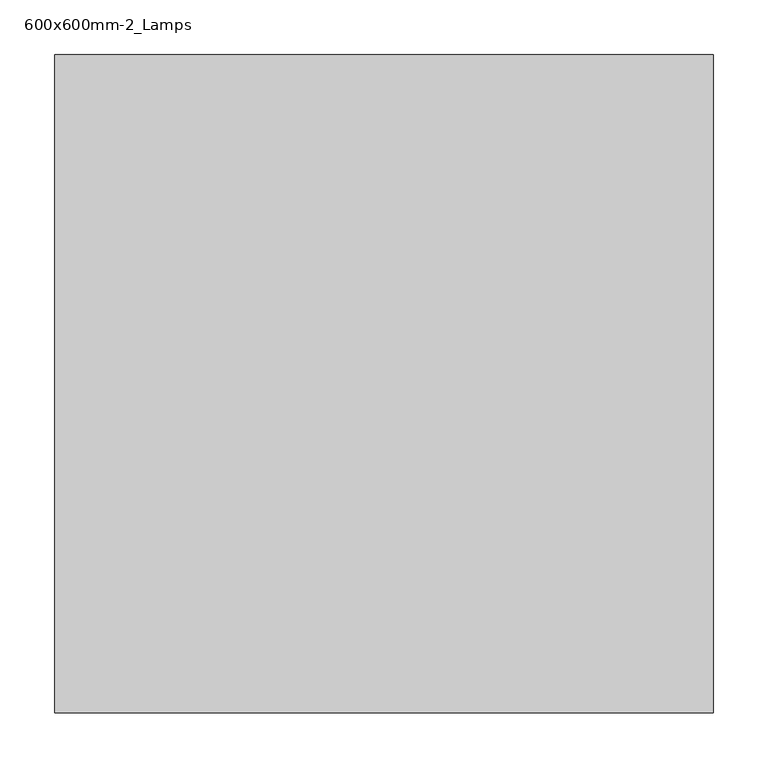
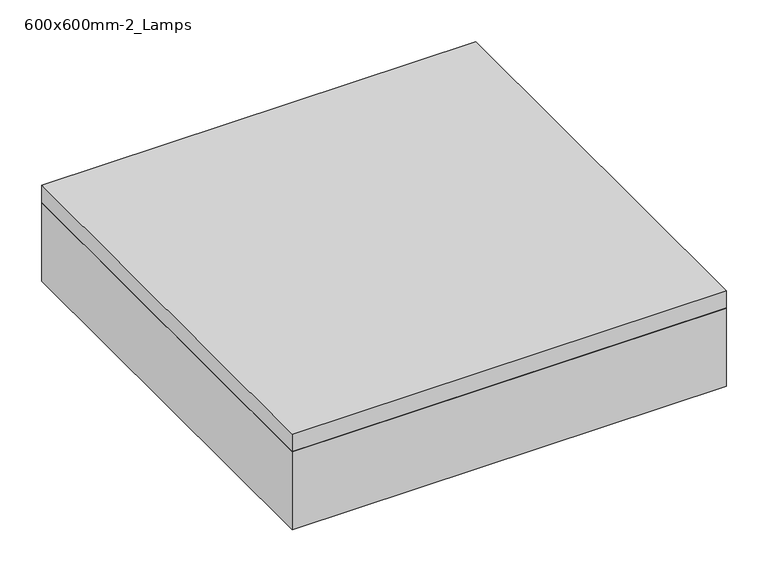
"""IFC4 building model written with IfcOpenShell, lengths in millimetres: light fixture geometry, BIMHealth-Light_Fitting-LOD2A-v1 : 600x600mm-2_Lamps."""

from ifc_helpers import new_model, si_unit, frame, origin, place, context, project, spatial, polyline, outline, extrude, source, transform, mapped, element, save


def light_fixture_600x600mm_2_lamps_e2767e77(model_context):
    return source(origin(), model_context, "Body", "SweptSolid", [
        extrude(outline(polyline([(251.0964984, 219.9340679), (251.0964984, -329.2659321), (-298.1035016, -329.2659321), (-298.1035016, 219.9340679), (251.0964984, 219.9340679)])), frame((0.0, 0.0, 2438.4), z_axis=(0.0, 0.0, 1.0), x_axis=(1.0, 0.0, 0.0)), (0.0, 0.0, 1.0), 6.35),
        extrude(outline(polyline([(276.4964984, 245.3340679), (276.4964984, -354.6659321), (-323.5035016, -354.6659321), (-323.5035016, 245.3340679), (276.4964984, 245.3340679)]), holes=[polyline([(251.0964984, 219.9340679), (-298.1035016, 219.9340679), (-298.1035016, -329.2659321), (251.0964984, -329.2659321), (251.0964984, 219.9340679)])]), frame((0.0, 0.0, 2438.4), z_axis=(0.0, 0.0, 1.0), x_axis=(1.0, 0.0, 0.0)), (0.0, 0.0, 1.0), 114.3),
        extrude(outline(polyline([(251.0964984, 220.3340679), (251.0964984, -329.2659322), (-298.5035016, -329.2659322), (-298.5035016, 220.3340679), (251.0964984, 220.3340679)])), frame((0.0, 0.0, 2438.4), z_axis=(0.0, 0.0, 1.0), x_axis=(1.0, 0.0, 0.0)), (0.0, 0.0, 1.0), 10.0),
        extrude(outline(polyline([(276.4964984, 245.3340679), (276.4964984, -354.6659321), (-323.5035016, -354.6659321), (-323.5035016, 245.3340679), (276.4964984, 245.3340679)])), frame((0.0, 0.0, 2552.7), z_axis=(0.0, 0.0, 1.0), x_axis=(1.0, 0.0, 0.0)), (0.0, 0.0, 1.0), 25.4),
    ])


if __name__ == "__main__":
    model = new_model("IFC4")
    model_context = context("Model", 3, world=origin())
    ifc_project = project(units=[si_unit("LENGTHUNIT", "METRE", prefix="MILLI")], contexts=[model_context])
    site = spatial("IfcSite", under=ifc_project)
    building = spatial("IfcBuilding", under=site)
    placement = place(None, origin())
    light_fixture_600x600mm_2_lamps_shape = light_fixture_600x600mm_2_lamps_e2767e77(model_context)
    element("IfcLightFixture", 1, ObjectType="BIMHealth-Light_Fitting-LOD2A-v1 : 600x600mm-2_Lamps", at=placement, inside=building, context=model_context, shape_type="MappedRepresentation", body=[
        mapped(light_fixture_600x600mm_2_lamps_shape, transform((0.0, 0.0, 0.0), x_axis=(1.0, 0.0, 0.0), y_axis=(0.0, 1.0, 0.0), z_axis=(0.0, 0.0, 1.0))),
    ])
    save(model, "model.ifc")
